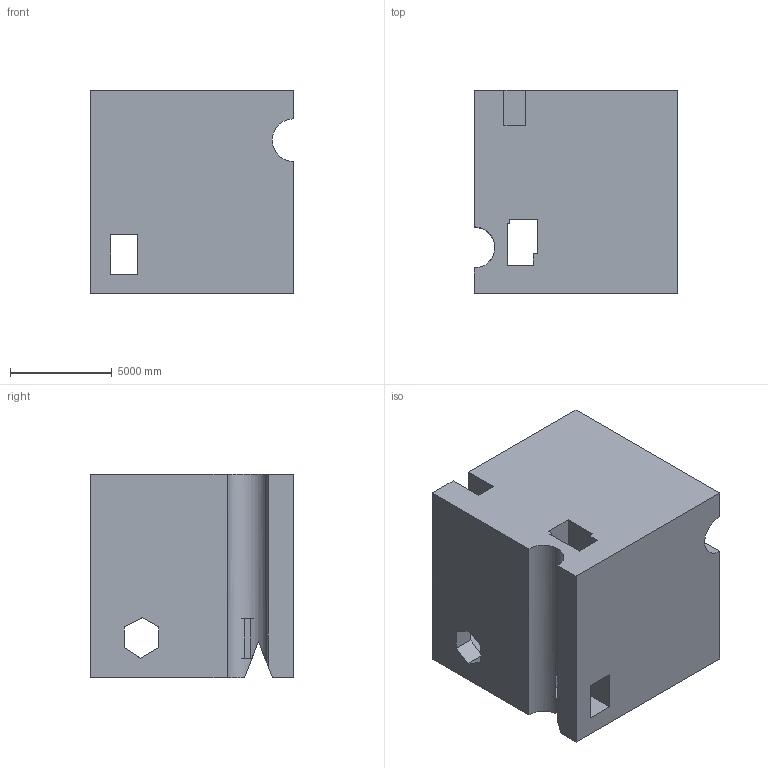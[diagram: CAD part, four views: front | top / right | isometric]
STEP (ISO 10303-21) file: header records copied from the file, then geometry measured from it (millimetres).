
FILE_DESCRIPTION (( 'STEP AP203' ), '1' );
FILE_NAME ('1726.STEP', '2022-08-19T12:07:14', ( 'user' ), ( '' ), 'SwSTEP 2.0', 'SolidWorks 2021', '' );
FILE_SCHEMA (( 'CONFIG_CONTROL_DESIGN' ));
Length unit declared in the file: centimetre
Products named in the file (1): 1726
Bounding box: 10000 x 10000 x 10000 mm (x, y, z)
Volume: 873072306885.1 mm3; surface area: 794947417.5 mm2
Topology: 1 solids, 1 shells, 49 faces, 159 edges, 106 vertices
Faces by surface type: plane 47, cylinder 2
Entity records: 1820 total; most frequent: CARTESIAN_POINT 321, ORIENTED_EDGE 318, DIRECTION 263, EDGE_CURVE 159, LINE 151, VECTOR 151, VERTEX_POINT 106, AXIS2_PLACEMENT_3D 56
